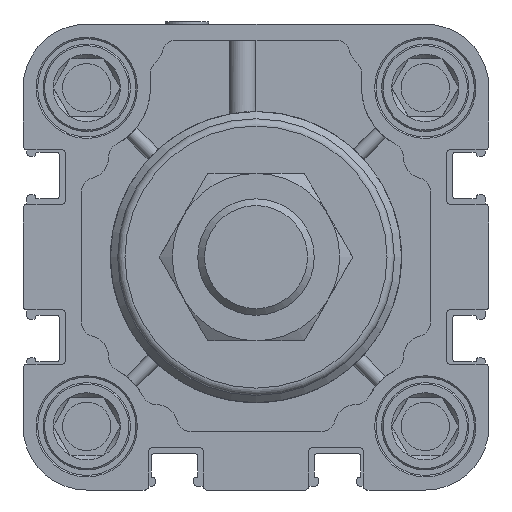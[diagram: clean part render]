
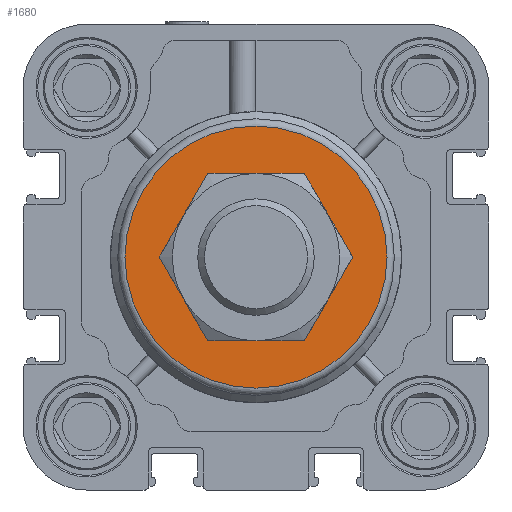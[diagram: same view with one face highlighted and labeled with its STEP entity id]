
A CAD part, left-side view. The second image highlights one B-rep face of the part: STEP entity #1680.
In plain terms, the highlighted planar face has unit normal (-1, 0, 0).
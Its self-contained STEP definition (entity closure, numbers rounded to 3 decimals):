
#1680 = ADVANCED_FACE( '', ( #3693, #3694 ), #3695, .F. );
#3693 = FACE_BOUND( '', #6009, .T. );
#3694 = FACE_OUTER_BOUND( '', #6010, .T. );
#3695 = PLANE( '', #6011 );
#6009 = EDGE_LOOP( '', ( #10714 ) );
#6010 = EDGE_LOOP( '', ( #10715 ) );
#6011 = AXIS2_PLACEMENT_3D( '', #10716, #10717, #10718 );
#10714 = ORIENTED_EDGE( '', *, *, #14745, .F. );
#10715 = ORIENTED_EDGE( '', *, *, #14469, .T. );
#10716 = CARTESIAN_POINT( '', ( -27., 0., 18. ) );
#10717 = DIRECTION( '', ( 1., 0., 0. ) );
#10718 = DIRECTION( '', ( 0., 0., -1. ) );
#14469 = EDGE_CURVE( '', #17721, #17721, #17722, .T. );
#14745 = EDGE_CURVE( '', #18083, #18083, #18084, .F. );
#17721 = VERTEX_POINT( '', #22472 );
#17722 = CIRCLE( '', #22473, 18. );
#18083 = VERTEX_POINT( '', #23001 );
#18084 = CIRCLE( '', #23002, 10. );
#22472 = CARTESIAN_POINT( '', ( -27., 0., 18. ) );
#22473 = AXIS2_PLACEMENT_3D( '', #25820, #25821, #25822 );
#23001 = CARTESIAN_POINT( '', ( -27., 0., -10. ) );
#23002 = AXIS2_PLACEMENT_3D( '', #26140, #26141, #26142 );
#25820 = CARTESIAN_POINT( '', ( -27., 0., 0. ) );
#25821 = DIRECTION( '', ( -1., 0., 0. ) );
#25822 = DIRECTION( '', ( 0., 0., 1. ) );
#26140 = CARTESIAN_POINT( '', ( -27., 0., 0. ) );
#26141 = DIRECTION( '', ( 1., 0., 0. ) );
#26142 = DIRECTION( '', ( 0., 0., -1. ) );
